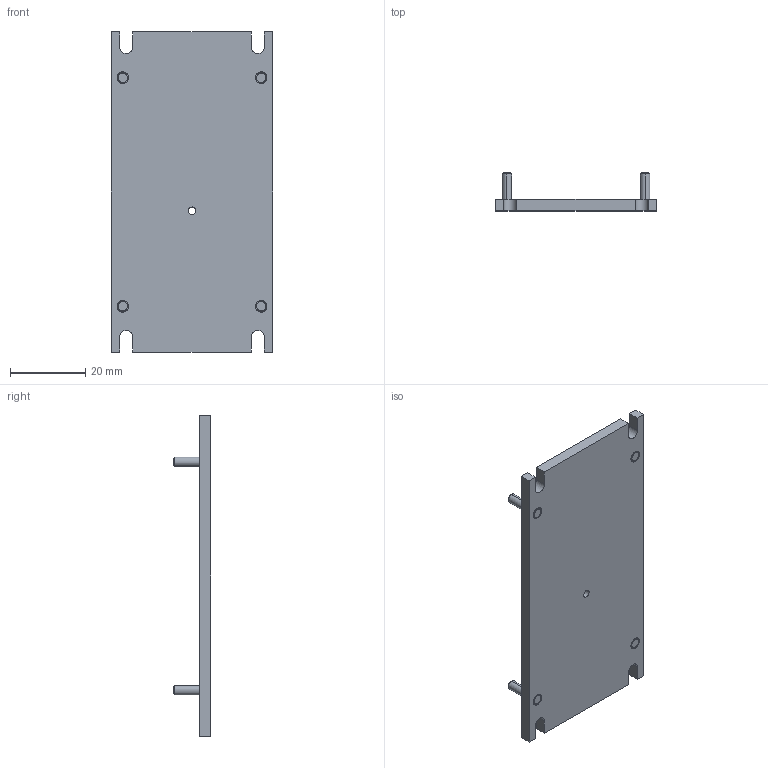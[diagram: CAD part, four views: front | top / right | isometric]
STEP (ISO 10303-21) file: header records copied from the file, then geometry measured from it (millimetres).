
FILE_DESCRIPTION((''),'2;1');
FILE_NAME('ESCON2_60-30_ZUSAMMENBAU_ASM','2023-10-31T16:46:41',('MMAGMMA'),(''),'CREO PARAMETRIC BY PTC INC, 2022484','CREO PARAMETRIC BY PTC INC, 2022484','');
FILE_SCHEMA(('CONFIG_CONTROL_DESIGN','SHAPE_APPEARANCE_LAYERS_GROUPS'));
Length unit declared in the file: millimetre
Products named in the file (3): ESCON2_60-30_GRUNDPLATTE; 3801435; ESCON2_60-30_ZUSAMMENBAU_ASM
Assembly tree (5 placements, depth 2):
  ESCON2_60-30_ZUSAMMENBAU_ASM
    ESCON2_60-30_GRUNDPLATTE
    3801435  x4
Bounding box: 43 x 10 x 85 mm (x, y, z)
Volume: 10876.4 mm3; surface area: 8496.8 mm2
Topology: 5 solids, 5 shells, 136 faces, 298 edges, 176 vertices
Faces by surface type: cylinder 54, plane 34, cone 32, torus 16
Entity records: 2522 total; most frequent: DIRECTION 332, CARTESIAN_POINT 295, ORIENTED_EDGE 280, PRESENTATION_STYLE_ASSIGNMENT 168, STYLED_ITEM 168, CURVE_STYLE 140, EDGE_CURVE 140, AXIS2_PLACEMENT_3D 126
